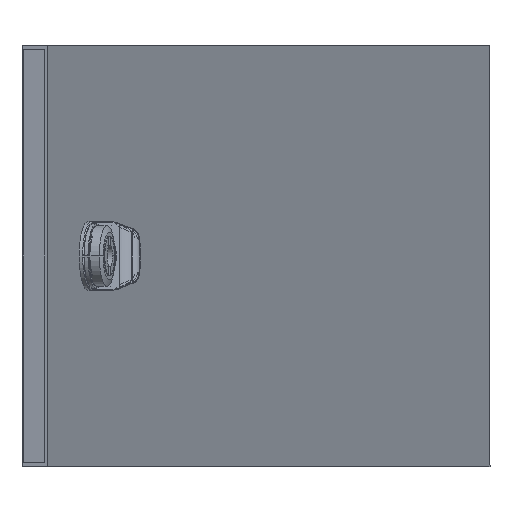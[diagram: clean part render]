
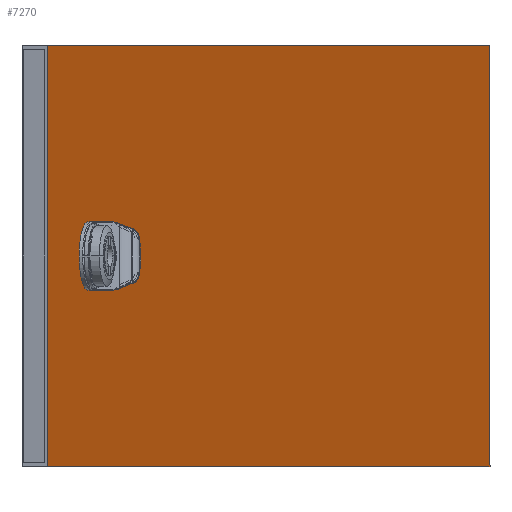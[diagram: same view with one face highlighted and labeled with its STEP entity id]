
A CAD part, front view. The second image highlights one B-rep face of the part: STEP entity #7270.
In plain terms, the highlighted planar face has unit normal (0.966, -0.259, 0).
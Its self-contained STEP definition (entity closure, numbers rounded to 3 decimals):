
#93 = CARTESIAN_POINT ( 'NONE',  ( -166.069, -613.752, 39.457 ) ) ;
#200 = DIRECTION ( 'NONE',  ( -0.259, -0.966, 0. ) ) ;
#212 = AXIS2_PLACEMENT_3D ( 'NONE', #6930, #2579, #2641 ) ;
#330 = CARTESIAN_POINT ( 'NONE',  ( -189.082, -699.726, 25. ) ) ;
#344 = DIRECTION ( 'NONE',  ( 0., 0., -1. ) ) ;
#566 = EDGE_CURVE ( 'NONE', #3741, #5039, #7298, .T. ) ;
#662 = CARTESIAN_POINT ( 'NONE',  ( -167.362, -618.582, 9. ) ) ;
#799 = LINE ( 'NONE', #7358, #8196 ) ;
#807 = CARTESIAN_POINT ( 'NONE',  ( -174.602, -645.63, 41. ) ) ;
#832 = EDGE_CURVE ( 'NONE', #3412, #3741, #6162, .T. ) ;
#1265 = CARTESIAN_POINT ( 'NONE',  ( -166.198, -614.235, 9.677 ) ) ;
#1527 = ORIENTED_EDGE ( 'NONE', *, *, #3173, .F. ) ;
#1661 = DIRECTION ( 'NONE',  ( 0., 0., -1. ) ) ;
#1831 = AXIS2_PLACEMENT_3D ( 'NONE', #11335, #3645, #11473 ) ;
#1849 = FACE_OUTER_BOUND ( 'NONE', #5490, .T. ) ;
#1888 = DIRECTION ( 'NONE',  ( 0.259, 0.966, 0. ) ) ;
#2076 = VERTEX_POINT ( 'NONE', #4999 ) ;
#2182 = B_SPLINE_CURVE_WITH_KNOTS ( 'NONE', 3,
 ( #2264, #6621, #8187, #6975, #10102, #4832 ),
 .UNSPECIFIED., .F., .F.,
 ( 4, 2, 4 ),
 ( 0., 0.5, 1. ),
 .UNSPECIFIED. ) ;
#2264 = CARTESIAN_POINT ( 'NONE',  ( -166.069, -613.752, 39.457 ) ) ;
#2538 = DIRECTION ( 'NONE',  ( -0.259, -0.966, 0. ) ) ;
#2579 = DIRECTION ( 'NONE',  ( 0.966, -0.259, 0. ) ) ;
#2641 = DIRECTION ( 'NONE',  ( 0., 0., -1. ) ) ;
#2805 = EDGE_CURVE ( 'NONE', #3780, #10198, #13573, .T. ) ;
#2827 = CARTESIAN_POINT ( 'NONE',  ( -166.328, -614.718, 10.543 ) ) ;
#2970 = EDGE_LOOP ( 'NONE', ( #11457, #6182, #4918, #4973, #12591, #4125, #9930, #3232, #6293, #9687 ) ) ;
#3009 = B_SPLINE_CURVE_WITH_KNOTS ( 'NONE', 3,
 ( #1265, #4454, #9041, #4610, #3396, #3472 ),
 .UNSPECIFIED., .F., .F.,
 ( 4, 2, 4 ),
 ( 0., 0.5, 1. ),
 .UNSPECIFIED. ) ;
#3074 = EDGE_CURVE ( 'NONE', #5510, #2076, #12355, .T. ) ;
#3173 = EDGE_CURVE ( 'NONE', #13078, #5510, #3894, .T. ) ;
#3232 = ORIENTED_EDGE ( 'NONE', *, *, #832, .T. ) ;
#3288 = CARTESIAN_POINT ( 'NONE',  ( -167.362, -618.582, 41. ) ) ;
#3396 = CARTESIAN_POINT ( 'NONE',  ( -166.069, -613.752, 10.369 ) ) ;
#3412 = VERTEX_POINT ( 'NONE', #11865 ) ;
#3427 = ORIENTED_EDGE ( 'NONE', *, *, #12660, .F. ) ;
#3472 = CARTESIAN_POINT ( 'NONE',  ( -166.069, -613.752, 10.543 ) ) ;
#3487 = EDGE_CURVE ( 'NONE', #2076, #12396, #10082, .T. ) ;
#3641 = VECTOR ( 'NONE', #1888, 1000. ) ;
#3645 = DIRECTION ( 'NONE',  ( -0.966, 0.259, 0. ) ) ;
#3741 = VERTEX_POINT ( 'NONE', #12836 ) ;
#3760 = DIRECTION ( 'NONE',  ( 0., 0., -1. ) ) ;
#3780 = VERTEX_POINT ( 'NONE', #93 ) ;
#3826 = DIRECTION ( 'NONE',  ( 0.966, -0.259, 0. ) ) ;
#3894 = LINE ( 'NONE', #4022, #10841 ) ;
#3922 = ORIENTED_EDGE ( 'NONE', *, *, #3487, .F. ) ;
#3978 = VERTEX_POINT ( 'NONE', #662 ) ;
#4022 = CARTESIAN_POINT ( 'NONE',  ( 16.486, 68.237, 25. ) ) ;
#4043 = EDGE_CURVE ( 'NONE', #4487, #3978, #5882, .T. ) ;
#4057 = DIRECTION ( 'NONE',  ( 0.259, 0.966, 0. ) ) ;
#4125 = ORIENTED_EDGE ( 'NONE', *, *, #4043, .T. ) ;
#4229 = VECTOR ( 'NONE', #344, 1000. ) ;
#4454 = CARTESIAN_POINT ( 'NONE',  ( -166.159, -614.089, 9.765 ) ) ;
#4487 = VERTEX_POINT ( 'NONE', #5256 ) ;
#4610 = CARTESIAN_POINT ( 'NONE',  ( -166.081, -613.798, 10.194 ) ) ;
#4832 = CARTESIAN_POINT ( 'NONE',  ( -166.198, -614.235, 40.323 ) ) ;
#4858 = CARTESIAN_POINT ( 'NONE',  ( -167.362, -618.582, 25. ) ) ;
#4892 = DIRECTION ( 'NONE',  ( -0.966, 0.259, 0. ) ) ;
#4918 = ORIENTED_EDGE ( 'NONE', *, *, #2805, .T. ) ;
#4955 = AXIS2_PLACEMENT_3D ( 'NONE', #4858, #12554, #1661 ) ;
#4973 = ORIENTED_EDGE ( 'NONE', *, *, #6859, .F. ) ;
#4999 = CARTESIAN_POINT ( 'NONE',  ( -189.082, -699.726, -73. ) ) ;
#5039 = VERTEX_POINT ( 'NONE', #3288 ) ;
#5256 = CARTESIAN_POINT ( 'NONE',  ( -166.259, -614.461, 9.58 ) ) ;
#5490 = EDGE_LOOP ( 'NONE', ( #3922, #6122, #1527, #3427 ) ) ;
#5510 = VERTEX_POINT ( 'NONE', #13098 ) ;
#5853 = VECTOR ( 'NONE', #12212, 1000. ) ;
#5882 = CIRCLE ( 'NONE', #4955, 16. ) ;
#6049 = CARTESIAN_POINT ( 'NONE',  ( -129.351, -476.582, 904. ) ) ;
#6122 = ORIENTED_EDGE ( 'NONE', *, *, #3074, .F. ) ;
#6162 = CIRCLE ( 'NONE', #1831, 16. ) ;
#6182 = ORIENTED_EDGE ( 'NONE', *, *, #11857, .F. ) ;
#6204 = PLANE ( 'NONE',  #12878 ) ;
#6293 = ORIENTED_EDGE ( 'NONE', *, *, #566, .T. ) ;
#6621 = CARTESIAN_POINT ( 'NONE',  ( -166.069, -613.752, 39.631 ) ) ;
#6810 = CARTESIAN_POINT ( 'NONE',  ( -86.298, -315.744, -73. ) ) ;
#6859 = EDGE_CURVE ( 'NONE', #9241, #10198, #3009, .T. ) ;
#6930 = CARTESIAN_POINT ( 'NONE',  ( -166.328, -614.718, 39.457 ) ) ;
#6975 = CARTESIAN_POINT ( 'NONE',  ( -166.126, -613.966, 40.108 ) ) ;
#7270 = ADVANCED_FACE ( 'NONE', ( #1849, #11600 ), #6204, .T. ) ;
#7298 = LINE ( 'NONE', #807, #3641 ) ;
#7358 = CARTESIAN_POINT ( 'NONE',  ( -86.298, -315.744, 123. ) ) ;
#7671 = CARTESIAN_POINT ( 'NONE',  ( -166.198, -614.235, 40.323 ) ) ;
#7930 = EDGE_CURVE ( 'NONE', #8601, #12768, #13617, .T. ) ;
#7945 = AXIS2_PLACEMENT_3D ( 'NONE', #9122, #4892, #9254 ) ;
#8005 = AXIS2_PLACEMENT_3D ( 'NONE', #2827, #11659, #10575 ) ;
#8187 = CARTESIAN_POINT ( 'NONE',  ( -166.081, -613.798, 39.806 ) ) ;
#8196 = VECTOR ( 'NONE', #4057, 1000. ) ;
#8349 = VECTOR ( 'NONE', #2538, 1000. ) ;
#8601 = VERTEX_POINT ( 'NONE', #7671 ) ;
#8623 = CIRCLE ( 'NONE', #7945, 16. ) ;
#9041 = CARTESIAN_POINT ( 'NONE',  ( -166.126, -613.966, 9.892 ) ) ;
#9122 = CARTESIAN_POINT ( 'NONE',  ( -167.362, -618.582, 25. ) ) ;
#9187 = DIRECTION ( 'NONE',  ( 0., 0., -1. ) ) ;
#9241 = VERTEX_POINT ( 'NONE', #10769 ) ;
#9254 = DIRECTION ( 'NONE',  ( 0., 0., -1. ) ) ;
#9370 = CIRCLE ( 'NONE', #8005, 1. ) ;
#9687 = ORIENTED_EDGE ( 'NONE', *, *, #11875, .T. ) ;
#9834 = EDGE_CURVE ( 'NONE', #4487, #9241, #9370, .T. ) ;
#9930 = ORIENTED_EDGE ( 'NONE', *, *, #10750, .T. ) ;
#10082 = LINE ( 'NONE', #330, #5853 ) ;
#10102 = CARTESIAN_POINT ( 'NONE',  ( -166.159, -614.089, 40.236 ) ) ;
#10198 = VERTEX_POINT ( 'NONE', #12067 ) ;
#10305 = CARTESIAN_POINT ( 'NONE',  ( -166.069, -613.752, 41. ) ) ;
#10575 = DIRECTION ( 'NONE',  ( 0., 0., 1. ) ) ;
#10750 = EDGE_CURVE ( 'NONE', #3978, #3412, #11943, .T. ) ;
#10769 = CARTESIAN_POINT ( 'NONE',  ( -166.198, -614.235, 9.677 ) ) ;
#10841 = VECTOR ( 'NONE', #9187, 1000. ) ;
#11335 = CARTESIAN_POINT ( 'NONE',  ( -170.465, -630.174, 25. ) ) ;
#11457 = ORIENTED_EDGE ( 'NONE', *, *, #7930, .F. ) ;
#11473 = DIRECTION ( 'NONE',  ( 0., 0., -1. ) ) ;
#11600 = FACE_BOUND ( 'NONE', #2970, .T. ) ;
#11659 = DIRECTION ( 'NONE',  ( 0.966, -0.259, 0. ) ) ;
#11857 = EDGE_CURVE ( 'NONE', #3780, #8601, #2182, .T. ) ;
#11865 = CARTESIAN_POINT ( 'NONE',  ( -170.465, -630.174, 9. ) ) ;
#11875 = EDGE_CURVE ( 'NONE', #5039, #12768, #8623, .T. ) ;
#11943 = LINE ( 'NONE', #14072, #11991 ) ;
#11991 = VECTOR ( 'NONE', #200, 1000. ) ;
#12067 = CARTESIAN_POINT ( 'NONE',  ( -166.069, -613.752, 10.543 ) ) ;
#12212 = DIRECTION ( 'NONE',  ( 0., 0., 1. ) ) ;
#12355 = LINE ( 'NONE', #6810, #8349 ) ;
#12396 = VERTEX_POINT ( 'NONE', #12904 ) ;
#12554 = DIRECTION ( 'NONE',  ( -0.966, 0.259, 0. ) ) ;
#12591 = ORIENTED_EDGE ( 'NONE', *, *, #9834, .F. ) ;
#12660 = EDGE_CURVE ( 'NONE', #12396, #13078, #799, .T. ) ;
#12721 = CARTESIAN_POINT ( 'NONE',  ( 16.486, 68.237, 123. ) ) ;
#12768 = VERTEX_POINT ( 'NONE', #13037 ) ;
#12836 = CARTESIAN_POINT ( 'NONE',  ( -170.465, -630.174, 41. ) ) ;
#12878 = AXIS2_PLACEMENT_3D ( 'NONE', #6049, #3826, #3760 ) ;
#12904 = CARTESIAN_POINT ( 'NONE',  ( -189.082, -699.726, 123. ) ) ;
#13037 = CARTESIAN_POINT ( 'NONE',  ( -166.259, -614.461, 40.421 ) ) ;
#13078 = VERTEX_POINT ( 'NONE', #12721 ) ;
#13098 = CARTESIAN_POINT ( 'NONE',  ( 16.486, 68.237, -73. ) ) ;
#13573 = LINE ( 'NONE', #10305, #4229 ) ;
#13617 = CIRCLE ( 'NONE', #212, 1. ) ;
#14072 = CARTESIAN_POINT ( 'NONE',  ( -174.602, -645.63, 9. ) ) ;
